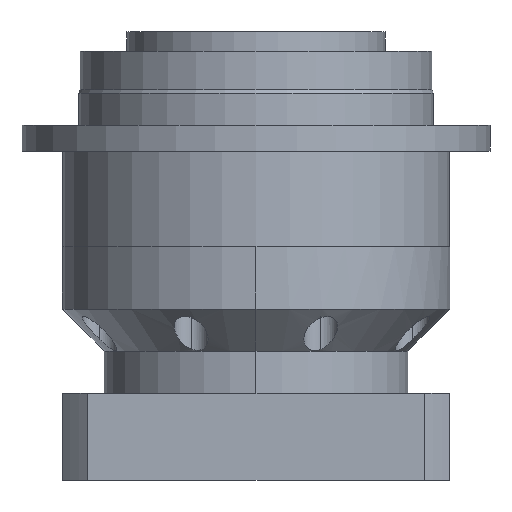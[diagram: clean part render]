
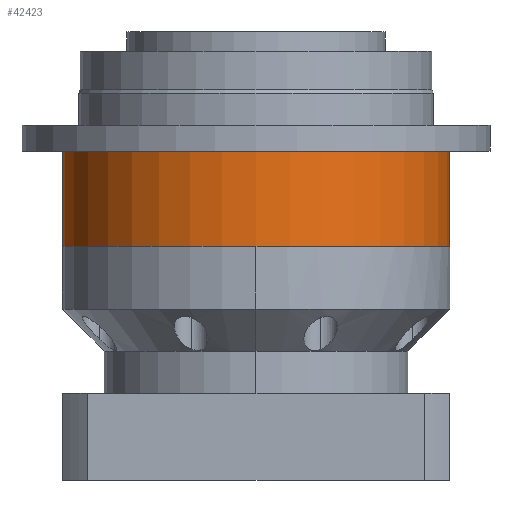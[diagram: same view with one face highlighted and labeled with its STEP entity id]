
A CAD part, front view. The second image highlights one B-rep face of the part: STEP entity #42423.
In plain terms, the highlighted cylindrical face has radius 60 mm (diameter 120 mm), a partial arc.
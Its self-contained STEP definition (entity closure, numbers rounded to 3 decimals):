
#3010 = ORIENTED_EDGE ( 'NONE', *, *, #19122, .T. ) ;
#6035 = ORIENTED_EDGE ( 'NONE', *, *, #21906, .T. ) ;
#6515 = CARTESIAN_POINT ( 'NONE',  ( -60., 0., 0. ) ) ;
#7109 = CIRCLE ( 'NONE', #21974, 60. ) ;
#8181 = VERTEX_POINT ( 'NONE', #24676 ) ;
#8522 = CYLINDRICAL_SURFACE ( 'NONE', #44959, 60. ) ;
#9794 = DIRECTION ( 'NONE',  ( 1., 0., 0. ) ) ;
#9834 = DIRECTION ( 'NONE',  ( 0., 0., 1. ) ) ;
#9955 = CARTESIAN_POINT ( 'NONE',  ( 0., 0., -60.5 ) ) ;
#14380 = ORIENTED_EDGE ( 'NONE', *, *, #20921, .T. ) ;
#15227 = CARTESIAN_POINT ( 'NONE',  ( -60., 0., -31. ) ) ;
#15490 = CARTESIAN_POINT ( 'NONE',  ( -60., 0., -60.5 ) ) ;
#16081 = VERTEX_POINT ( 'NONE', #15227 ) ;
#19122 = EDGE_CURVE ( 'NONE', #8181, #20189, #26529, .T. ) ;
#20189 = VERTEX_POINT ( 'NONE', #43102 ) ;
#20921 = EDGE_CURVE ( 'NONE', #43924, #8181, #21803, .T. ) ;
#21204 = DIRECTION ( 'NONE',  ( 0., 0., 1. ) ) ;
#21803 = CIRCLE ( 'NONE', #32552, 60. ) ;
#21906 = EDGE_CURVE ( 'NONE', #20189, #16081, #7109, .T. ) ;
#21974 = AXIS2_PLACEMENT_3D ( 'NONE', #22797, #22752, #22658 ) ;
#22658 = DIRECTION ( 'NONE',  ( 1., 0., 0. ) ) ;
#22752 = DIRECTION ( 'NONE',  ( 0., 0., -1. ) ) ;
#22797 = CARTESIAN_POINT ( 'NONE',  ( 0., 0., -31. ) ) ;
#24558 = VECTOR ( 'NONE', #21204, 1000. ) ;
#24676 = CARTESIAN_POINT ( 'NONE',  ( 60., 0., -60.5 ) ) ;
#26529 = LINE ( 'NONE', #36341, #29464 ) ;
#29464 = VECTOR ( 'NONE', #34636, 1000. ) ;
#29668 = DIRECTION ( 'NONE',  ( 0., 0., 1. ) ) ;
#32429 = ORIENTED_EDGE ( 'NONE', *, *, #45430, .F. ) ;
#32552 = AXIS2_PLACEMENT_3D ( 'NONE', #9955, #9834, #9794 ) ;
#32933 = EDGE_LOOP ( 'NONE', ( #32429, #14380, #3010, #6035 ) ) ;
#33186 = DIRECTION ( 'NONE',  ( 1., 0., 0. ) ) ;
#33329 = CARTESIAN_POINT ( 'NONE',  ( 0., 0., 0. ) ) ;
#34636 = DIRECTION ( 'NONE',  ( 0., 0., 1. ) ) ;
#36341 = CARTESIAN_POINT ( 'NONE',  ( 60., 0., 0. ) ) ;
#42423 = ADVANCED_FACE ( 'NONE', ( #44415 ), #8522, .T. ) ;
#43102 = CARTESIAN_POINT ( 'NONE',  ( 60., 0., -31. ) ) ;
#43924 = VERTEX_POINT ( 'NONE', #15490 ) ;
#44415 = FACE_OUTER_BOUND ( 'NONE', #32933, .T. ) ;
#44959 = AXIS2_PLACEMENT_3D ( 'NONE', #33329, #29668, #33186 ) ;
#45175 = LINE ( 'NONE', #6515, #24558 ) ;
#45430 = EDGE_CURVE ( 'NONE', #43924, #16081, #45175, .T. ) ;
